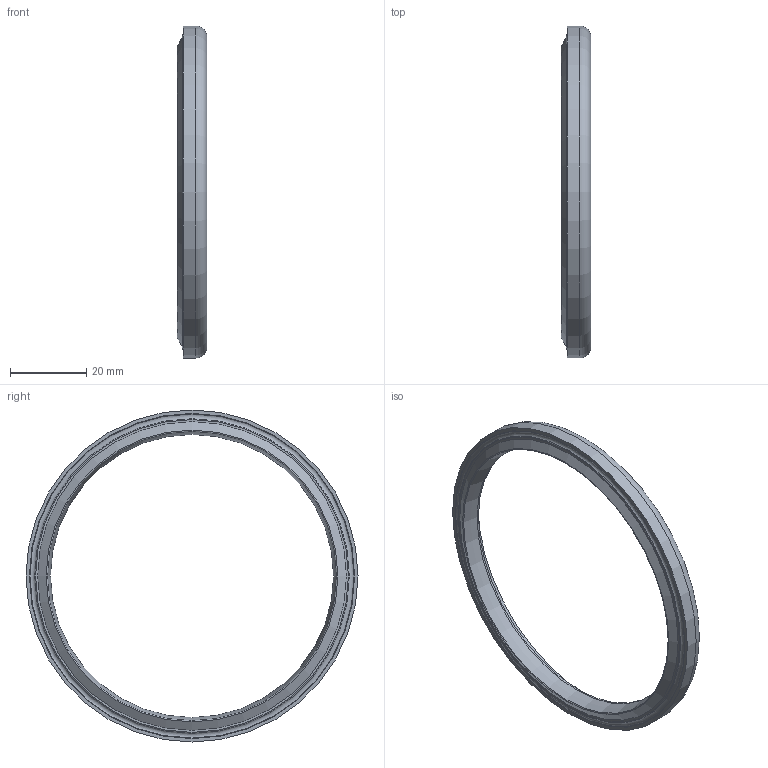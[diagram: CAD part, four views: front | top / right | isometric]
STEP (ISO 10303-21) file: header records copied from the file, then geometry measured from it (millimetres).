
FILE_DESCRIPTION(/* description */ ('STEP AP203'),/* implementation_level */ '2;1');
FILE_NAME(/* name */ 'P_MZ_Z_1866',/* time_stamp */ '2024-07-08T11:07:15+02:00',/* author */ ('License CC BY-ND 4.0'),/* organization */ ('CADENAS'),/* preprocessor_version */ 'ST-DEVELOPER v19.3',/* originating_system */ 'PARTsolutions',/* authorisation */ ' ');
FILE_SCHEMA (('CONFIG_CONTROL_DESIGN'));
Length unit declared in the file: millimetre
Products named in the file (1): P_MZ_Z_1866
Bounding box: 7.8 x 86.9 x 86.9 mm (x, y, z)
Volume: 7887.9 mm3; surface area: 6288.5 mm2
Topology: 1 solids, 1 shells, 15 faces, 26 edges, 15 vertices
Faces by surface type: torus 7, plane 4, cylinder 3, cone 1
Full cylindrical faces by diameter (mm): 74.1 x1, 80.4 x1, 86.9 x1
Entity records: 437 total; most frequent: DIRECTION 62, CARTESIAN_POINT 46, AXIS2_PLACEMENT_3D 31, ORIENTED_EDGE 30, EDGE_LOOP 30, FACE_BOUND 30, EDGE_CURVE 15, VERTEX_POINT 15
